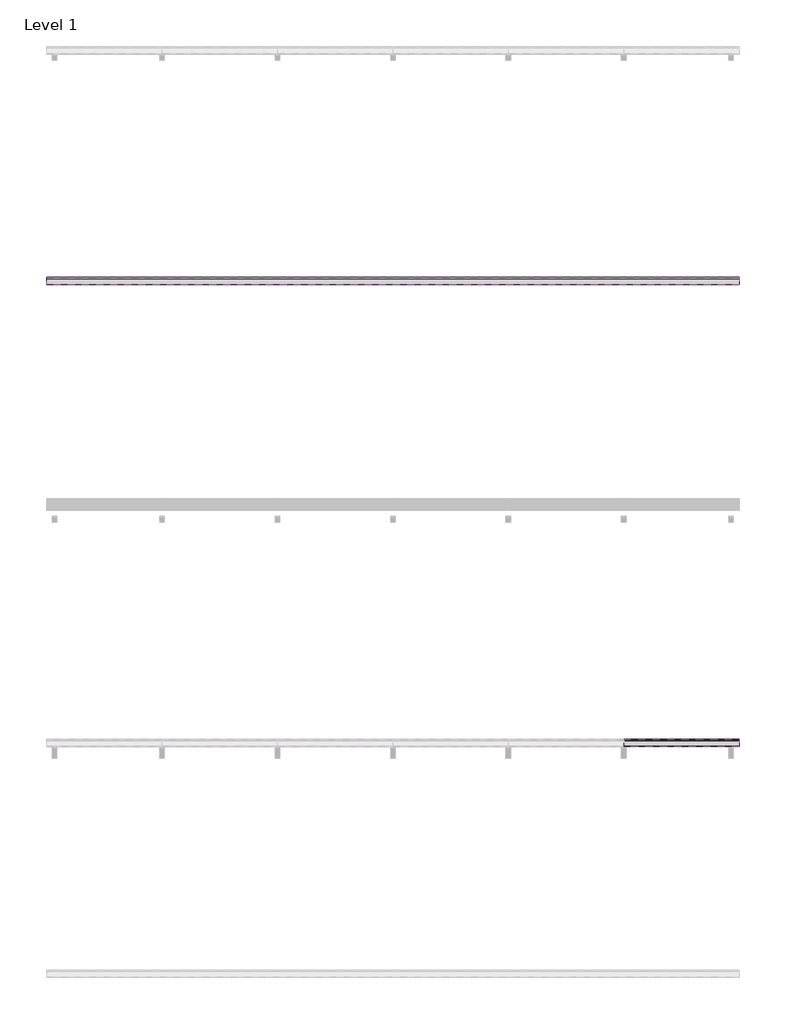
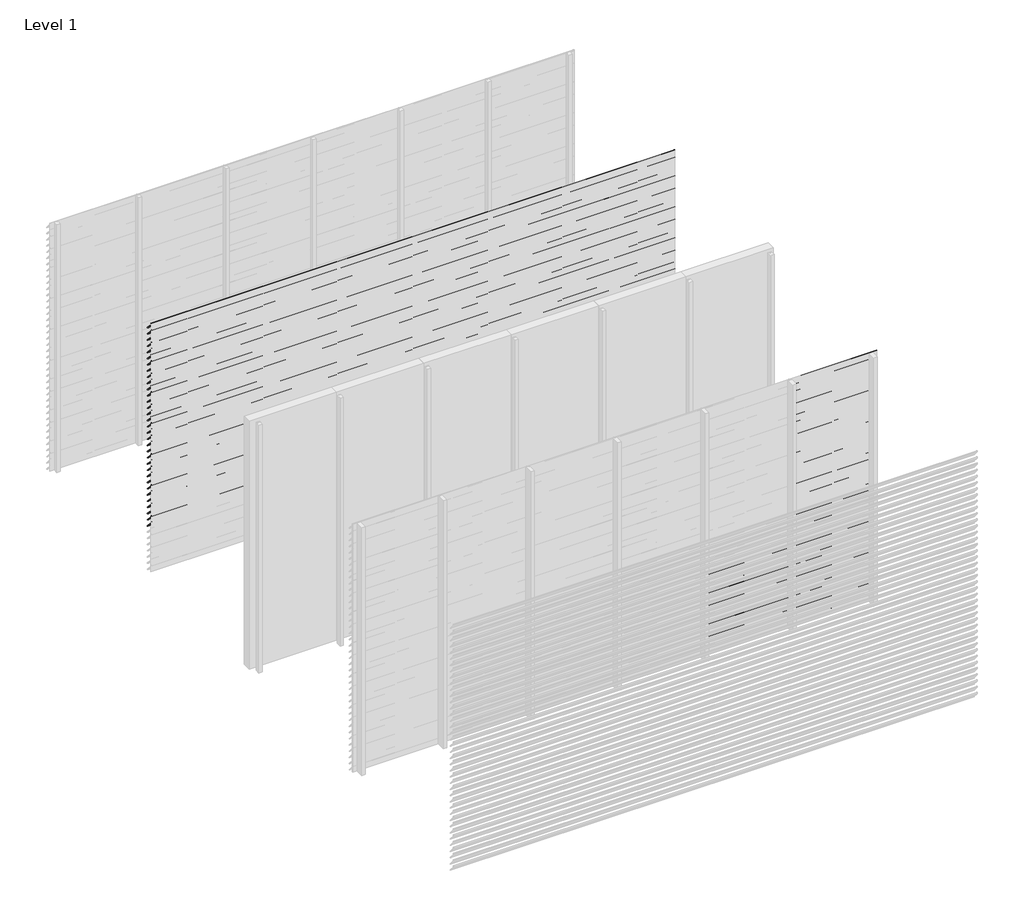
# One storey, part 16 of 35: 86 proxies.
"""IFC4 building model written with IfcOpenShell, lengths in millimetres."""

from ifc_helpers import new_model, si_unit, frame, origin, place, context, project, spatial, polyline, outline, extrude, element, save

model = new_model("IFC4")

# Units and contexts
model_context = context("Model", 3, world=origin())
ifc_project = project(units=[si_unit("LENGTHUNIT", "METRE", prefix="MILLI")], contexts=[model_context])

# Site, building, storey
site = spatial("IfcSite", under=ifc_project)
building = spatial("IfcBuilding", under=site)
storey = spatial("IfcBuildingStorey", under=building, Name="Level 1", Elevation=0.0)

# Proxies
placement = place(None, origin())
element("IfcBuildingElementProxy", 1, Name="Wall Sweeps", at=placement, inside=storey, context=model_context, shape_type="SweptSolid", body=[
    extrude(outline(polyline([(-31996.5, 3000.0), (-31996.5, 2985.5463701), (-31934.5, 2913.9330051), (-31934.5, 2910.4), (-31936.0, 2910.4), (-31936.0, 2913.3738975), (-31998.0, 2984.9872626), (-31998.0, 3000.0), (-31996.5, 3000.0)])), frame((0.0, 0.0, 0.0), z_axis=(1.0, 0.0, 0.0), x_axis=(0.0, 1.0, 0.0)), (0.0, 0.0, 1.0), 6000.0),
])
element("IfcBuildingElementProxy", 2, Name="Wall Sweeps", at=placement, inside=storey, context=model_context, shape_type="SweptSolid", body=[
    extrude(outline(polyline([(-31996.5, 2925.0), (-31996.5, 2910.5463701), (-31934.5, 2838.9330051), (-31934.5, 2835.4), (-31936.0, 2835.4), (-31936.0, 2838.3738975), (-31998.0, 2909.9872626), (-31998.0, 2925.0), (-31996.5, 2925.0)])), frame((0.0, 0.0, 0.0), z_axis=(1.0, 0.0, 0.0), x_axis=(0.0, 1.0, 0.0)), (0.0, 0.0, 1.0), 6000.0),
])
element("IfcBuildingElementProxy", 3, Name="Wall Sweeps", at=placement, inside=storey, context=model_context, shape_type="SweptSolid", body=[
    extrude(outline(polyline([(-31996.5, 2850.0), (-31996.5, 2835.5463701), (-31934.5, 2763.9330051), (-31934.5, 2760.4), (-31936.0, 2760.4), (-31936.0, 2763.3738975), (-31998.0, 2834.9872626), (-31998.0, 2850.0), (-31996.5, 2850.0)])), frame((0.0, 0.0, 0.0), z_axis=(1.0, 0.0, 0.0), x_axis=(0.0, 1.0, 0.0)), (0.0, 0.0, 1.0), 6000.0),
])
element("IfcBuildingElementProxy", 4, Name="Wall Sweeps", at=placement, inside=storey, context=model_context, shape_type="SweptSolid", body=[
    extrude(outline(polyline([(-31996.5, 2775.0), (-31996.5, 2760.5463701), (-31934.5, 2688.9330051), (-31934.5, 2685.4), (-31936.0, 2685.4), (-31936.0, 2688.3738975), (-31998.0, 2759.9872626), (-31998.0, 2775.0), (-31996.5, 2775.0)])), frame((0.0, 0.0, 0.0), z_axis=(1.0, 0.0, 0.0), x_axis=(0.0, 1.0, 0.0)), (0.0, 0.0, 1.0), 6000.0),
])
element("IfcBuildingElementProxy", 5, Name="Wall Sweeps", at=placement, inside=storey, context=model_context, shape_type="SweptSolid", body=[
    extrude(outline(polyline([(-31996.5, 2700.0), (-31996.5, 2685.5463701), (-31934.5, 2613.9330051), (-31934.5, 2610.4), (-31936.0, 2610.4), (-31936.0, 2613.3738975), (-31998.0, 2684.9872626), (-31998.0, 2700.0), (-31996.5, 2700.0)])), frame((0.0, 0.0, 0.0), z_axis=(1.0, 0.0, 0.0), x_axis=(0.0, 1.0, 0.0)), (0.0, 0.0, 1.0), 6000.0),
])
element("IfcBuildingElementProxy", 6, Name="Wall Sweeps", at=placement, inside=storey, context=model_context, shape_type="SweptSolid", body=[
    extrude(outline(polyline([(-31996.5, 2625.0), (-31996.5, 2610.5463701), (-31934.5, 2538.9330051), (-31934.5, 2535.4), (-31936.0, 2535.4), (-31936.0, 2538.3738975), (-31998.0, 2609.9872626), (-31998.0, 2625.0), (-31996.5, 2625.0)])), frame((0.0, 0.0, 0.0), z_axis=(1.0, 0.0, 0.0), x_axis=(0.0, 1.0, 0.0)), (0.0, 0.0, 1.0), 6000.0),
])
element("IfcBuildingElementProxy", 7, Name="Wall Sweeps", at=placement, inside=storey, context=model_context, shape_type="SweptSolid", body=[
    extrude(outline(polyline([(-31996.5, 2550.0), (-31996.5, 2535.5463701), (-31934.5, 2463.9330051), (-31934.5, 2460.4), (-31936.0, 2460.4), (-31936.0, 2463.3738975), (-31998.0, 2534.9872626), (-31998.0, 2550.0), (-31996.5, 2550.0)])), frame((0.0, 0.0, 0.0), z_axis=(1.0, 0.0, 0.0), x_axis=(0.0, 1.0, 0.0)), (0.0, 0.0, 1.0), 6000.0),
])
element("IfcBuildingElementProxy", 8, Name="Wall Sweeps", at=placement, inside=storey, context=model_context, shape_type="SweptSolid", body=[
    extrude(outline(polyline([(-31996.5, 2475.0), (-31996.5, 2460.5463701), (-31934.5, 2388.9330051), (-31934.5, 2385.4), (-31936.0, 2385.4), (-31936.0, 2388.3738975), (-31998.0, 2459.9872626), (-31998.0, 2475.0), (-31996.5, 2475.0)])), frame((0.0, 0.0, 0.0), z_axis=(1.0, 0.0, 0.0), x_axis=(0.0, 1.0, 0.0)), (0.0, 0.0, 1.0), 6000.0),
])
element("IfcBuildingElementProxy", 9, Name="Wall Sweeps", at=placement, inside=storey, context=model_context, shape_type="SweptSolid", body=[
    extrude(outline(polyline([(-31996.5, 2400.0), (-31996.5, 2385.5463701), (-31934.5, 2313.9330051), (-31934.5, 2310.4), (-31936.0, 2310.4), (-31936.0, 2313.3738975), (-31998.0, 2384.9872626), (-31998.0, 2400.0), (-31996.5, 2400.0)])), frame((0.0, 0.0, 0.0), z_axis=(1.0, 0.0, 0.0), x_axis=(0.0, 1.0, 0.0)), (0.0, 0.0, 1.0), 6000.0),
])
element("IfcBuildingElementProxy", 10, Name="Wall Sweeps", at=placement, inside=storey, context=model_context, shape_type="SweptSolid", body=[
    extrude(outline(polyline([(-31996.5, 2325.0), (-31996.5, 2310.5463701), (-31934.5, 2238.9330051), (-31934.5, 2235.4), (-31936.0, 2235.4), (-31936.0, 2238.3738975), (-31998.0, 2309.9872626), (-31998.0, 2325.0), (-31996.5, 2325.0)])), frame((0.0, 0.0, 0.0), z_axis=(1.0, 0.0, 0.0), x_axis=(0.0, 1.0, 0.0)), (0.0, 0.0, 1.0), 6000.0),
])
element("IfcBuildingElementProxy", 11, Name="Wall Sweeps", at=placement, inside=storey, context=model_context, shape_type="SweptSolid", body=[
    extrude(outline(polyline([(-31996.5, 2250.0), (-31996.5, 2235.5463701), (-31934.5, 2163.9330051), (-31934.5, 2160.4), (-31936.0, 2160.4), (-31936.0, 2163.3738975), (-31998.0, 2234.9872626), (-31998.0, 2250.0), (-31996.5, 2250.0)])), frame((0.0, 0.0, 0.0), z_axis=(1.0, 0.0, 0.0), x_axis=(0.0, 1.0, 0.0)), (0.0, 0.0, 1.0), 6000.0),
])
element("IfcBuildingElementProxy", 12, Name="Wall Sweeps", at=placement, inside=storey, context=model_context, shape_type="SweptSolid", body=[
    extrude(outline(polyline([(-31996.5, 2175.0), (-31996.5, 2160.5463701), (-31934.5, 2088.9330051), (-31934.5, 2085.4), (-31936.0, 2085.4), (-31936.0, 2088.3738975), (-31998.0, 2159.9872626), (-31998.0, 2175.0), (-31996.5, 2175.0)])), frame((0.0, 0.0, 0.0), z_axis=(1.0, 0.0, 0.0), x_axis=(0.0, 1.0, 0.0)), (0.0, 0.0, 1.0), 6000.0),
])
element("IfcBuildingElementProxy", 13, Name="Wall Sweeps", at=placement, inside=storey, context=model_context, shape_type="SweptSolid", body=[
    extrude(outline(polyline([(-31996.5, 2100.0), (-31996.5, 2085.5463701), (-31934.5, 2013.9330051), (-31934.5, 2010.4), (-31936.0, 2010.4), (-31936.0, 2013.3738975), (-31998.0, 2084.9872626), (-31998.0, 2100.0), (-31996.5, 2100.0)])), frame((0.0, 0.0, 0.0), z_axis=(1.0, 0.0, 0.0), x_axis=(0.0, 1.0, 0.0)), (0.0, 0.0, 1.0), 6000.0),
])
element("IfcBuildingElementProxy", 14, Name="Wall Sweeps", at=placement, inside=storey, context=model_context, shape_type="SweptSolid", body=[
    extrude(outline(polyline([(-31996.5, 2025.0), (-31996.5, 2010.5463701), (-31934.5, 1938.9330051), (-31934.5, 1935.4), (-31936.0, 1935.4), (-31936.0, 1938.3738975), (-31998.0, 2009.9872626), (-31998.0, 2025.0), (-31996.5, 2025.0)])), frame((0.0, 0.0, 0.0), z_axis=(1.0, 0.0, 0.0), x_axis=(0.0, 1.0, 0.0)), (0.0, 0.0, 1.0), 6000.0),
])
element("IfcBuildingElementProxy", 15, Name="Wall Sweeps", at=placement, inside=storey, context=model_context, shape_type="SweptSolid", body=[
    extrude(outline(polyline([(-31996.5, 1950.0), (-31996.5, 1935.5463701), (-31934.5, 1863.9330051), (-31934.5, 1860.4), (-31936.0, 1860.4), (-31936.0, 1863.3738975), (-31998.0, 1934.9872626), (-31998.0, 1950.0), (-31996.5, 1950.0)])), frame((0.0, 0.0, 0.0), z_axis=(1.0, 0.0, 0.0), x_axis=(0.0, 1.0, 0.0)), (0.0, 0.0, 1.0), 6000.0),
])
element("IfcBuildingElementProxy", 16, Name="Wall Sweeps", at=placement, inside=storey, context=model_context, shape_type="SweptSolid", body=[
    extrude(outline(polyline([(-31996.5, 1875.0), (-31996.5, 1860.5463701), (-31934.5, 1788.9330051), (-31934.5, 1785.4), (-31936.0, 1785.4), (-31936.0, 1788.3738975), (-31998.0, 1859.9872626), (-31998.0, 1875.0), (-31996.5, 1875.0)])), frame((0.0, 0.0, 0.0), z_axis=(1.0, 0.0, 0.0), x_axis=(0.0, 1.0, 0.0)), (0.0, 0.0, 1.0), 6000.0),
])
element("IfcBuildingElementProxy", 17, Name="Wall Sweeps", at=placement, inside=storey, context=model_context, shape_type="SweptSolid", body=[
    extrude(outline(polyline([(-31996.5, 1800.0), (-31996.5, 1785.5463701), (-31934.5, 1713.9330051), (-31934.5, 1710.4), (-31936.0, 1710.4), (-31936.0, 1713.3738975), (-31998.0, 1784.9872626), (-31998.0, 1800.0), (-31996.5, 1800.0)])), frame((0.0, 0.0, 0.0), z_axis=(1.0, 0.0, 0.0), x_axis=(0.0, 1.0, 0.0)), (0.0, 0.0, 1.0), 6000.0),
])
element("IfcBuildingElementProxy", 18, Name="Wall Sweeps", at=placement, inside=storey, context=model_context, shape_type="SweptSolid", body=[
    extrude(outline(polyline([(-31996.5, 1725.0), (-31996.5, 1710.5463701), (-31934.5, 1638.9330051), (-31934.5, 1635.4), (-31936.0, 1635.4), (-31936.0, 1638.3738975), (-31998.0, 1709.9872626), (-31998.0, 1725.0), (-31996.5, 1725.0)])), frame((0.0, 0.0, 0.0), z_axis=(1.0, 0.0, 0.0), x_axis=(0.0, 1.0, 0.0)), (0.0, 0.0, 1.0), 6000.0),
])
element("IfcBuildingElementProxy", 19, Name="Wall Sweeps", at=placement, inside=storey, context=model_context, shape_type="SweptSolid", body=[
    extrude(outline(polyline([(-31996.5, 1650.0), (-31996.5, 1635.5463701), (-31934.5, 1563.9330051), (-31934.5, 1560.4), (-31936.0, 1560.4), (-31936.0, 1563.3738975), (-31998.0, 1634.9872626), (-31998.0, 1650.0), (-31996.5, 1650.0)])), frame((0.0, 0.0, 0.0), z_axis=(1.0, 0.0, 0.0), x_axis=(0.0, 1.0, 0.0)), (0.0, 0.0, 1.0), 6000.0),
])
element("IfcBuildingElementProxy", 20, Name="Wall Sweeps", at=placement, inside=storey, context=model_context, shape_type="SweptSolid", body=[
    extrude(outline(polyline([(-31996.5, 1575.0), (-31996.5, 1560.5463701), (-31934.5, 1488.9330051), (-31934.5, 1485.4), (-31936.0, 1485.4), (-31936.0, 1488.3738975), (-31998.0, 1559.9872626), (-31998.0, 1575.0), (-31996.5, 1575.0)])), frame((0.0, 0.0, 0.0), z_axis=(1.0, 0.0, 0.0), x_axis=(0.0, 1.0, 0.0)), (0.0, 0.0, 1.0), 6000.0),
])
element("IfcBuildingElementProxy", 21, Name="Wall Sweeps", at=placement, inside=storey, context=model_context, shape_type="SweptSolid", body=[
    extrude(outline(polyline([(-31996.5, 1500.0), (-31996.5, 1485.5463701), (-31934.5, 1413.9330051), (-31934.5, 1410.4), (-31936.0, 1410.4), (-31936.0, 1413.3738975), (-31998.0, 1484.9872626), (-31998.0, 1500.0), (-31996.5, 1500.0)])), frame((0.0, 0.0, 0.0), z_axis=(1.0, 0.0, 0.0), x_axis=(0.0, 1.0, 0.0)), (0.0, 0.0, 1.0), 6000.0),
])
element("IfcBuildingElementProxy", 22, Name="Wall Sweeps", at=placement, inside=storey, context=model_context, shape_type="SweptSolid", body=[
    extrude(outline(polyline([(-31996.5, 1425.0), (-31996.5, 1410.5463701), (-31934.5, 1338.9330051), (-31934.5, 1335.4), (-31936.0, 1335.4), (-31936.0, 1338.3738975), (-31998.0, 1409.9872626), (-31998.0, 1425.0), (-31996.5, 1425.0)])), frame((0.0, 0.0, 0.0), z_axis=(1.0, 0.0, 0.0), x_axis=(0.0, 1.0, 0.0)), (0.0, 0.0, 1.0), 6000.0),
])
element("IfcBuildingElementProxy", 23, Name="Wall Sweeps", at=placement, inside=storey, context=model_context, shape_type="SweptSolid", body=[
    extrude(outline(polyline([(-31996.5, 1350.0), (-31996.5, 1335.5463701), (-31934.5, 1263.9330051), (-31934.5, 1260.4), (-31936.0, 1260.4), (-31936.0, 1263.3738975), (-31998.0, 1334.9872626), (-31998.0, 1350.0), (-31996.5, 1350.0)])), frame((0.0, 0.0, 0.0), z_axis=(1.0, 0.0, 0.0), x_axis=(0.0, 1.0, 0.0)), (0.0, 0.0, 1.0), 6000.0),
])
element("IfcBuildingElementProxy", 24, Name="Wall Sweeps", at=placement, inside=storey, context=model_context, shape_type="SweptSolid", body=[
    extrude(outline(polyline([(-31996.5, 1275.0), (-31996.5, 1260.5463701), (-31934.5, 1188.9330051), (-31934.5, 1185.4), (-31936.0, 1185.4), (-31936.0, 1188.3738975), (-31998.0, 1259.9872626), (-31998.0, 1275.0), (-31996.5, 1275.0)])), frame((0.0, 0.0, 0.0), z_axis=(1.0, 0.0, 0.0), x_axis=(0.0, 1.0, 0.0)), (0.0, 0.0, 1.0), 6000.0),
])
element("IfcBuildingElementProxy", 25, Name="Wall Sweeps", at=placement, inside=storey, context=model_context, shape_type="SweptSolid", body=[
    extrude(outline(polyline([(-31996.5, 1200.0), (-31996.5, 1185.5463701), (-31934.5, 1113.9330051), (-31934.5, 1110.4), (-31936.0, 1110.4), (-31936.0, 1113.3738975), (-31998.0, 1184.9872626), (-31998.0, 1200.0), (-31996.5, 1200.0)])), frame((0.0, 0.0, 0.0), z_axis=(1.0, 0.0, 0.0), x_axis=(0.0, 1.0, 0.0)), (0.0, 0.0, 1.0), 6000.0),
])
element("IfcBuildingElementProxy", 26, Name="Wall Sweeps", at=placement, inside=storey, context=model_context, shape_type="SweptSolid", body=[
    extrude(outline(polyline([(-31996.5, 1125.0), (-31996.5, 1110.5463701), (-31934.5, 1038.9330051), (-31934.5, 1035.4), (-31936.0, 1035.4), (-31936.0, 1038.3738975), (-31998.0, 1109.9872626), (-31998.0, 1125.0), (-31996.5, 1125.0)])), frame((0.0, 0.0, 0.0), z_axis=(1.0, 0.0, 0.0), x_axis=(0.0, 1.0, 0.0)), (0.0, 0.0, 1.0), 6000.0),
])
element("IfcBuildingElementProxy", 27, Name="Wall Sweeps", at=placement, inside=storey, context=model_context, shape_type="SweptSolid", body=[
    extrude(outline(polyline([(-31996.5, 1050.0), (-31996.5, 1035.5463701), (-31934.5, 963.9330051), (-31934.5, 960.4), (-31936.0, 960.4), (-31936.0, 963.3738975), (-31998.0, 1034.9872626), (-31998.0, 1050.0), (-31996.5, 1050.0)])), frame((0.0, 0.0, 0.0), z_axis=(1.0, 0.0, 0.0), x_axis=(0.0, 1.0, 0.0)), (0.0, 0.0, 1.0), 6000.0),
])
element("IfcBuildingElementProxy", 28, Name="Wall Sweeps", at=placement, inside=storey, context=model_context, shape_type="SweptSolid", body=[
    extrude(outline(polyline([(-31996.5, 975.0), (-31996.5, 960.5463701), (-31934.5, 888.9330051), (-31934.5, 885.4), (-31936.0, 885.4), (-31936.0, 888.3738975), (-31998.0, 959.9872626), (-31998.0, 975.0), (-31996.5, 975.0)])), frame((0.0, 0.0, 0.0), z_axis=(1.0, 0.0, 0.0), x_axis=(0.0, 1.0, 0.0)), (0.0, 0.0, 1.0), 6000.0),
])
element("IfcBuildingElementProxy", 29, Name="Wall Sweeps", at=placement, inside=storey, context=model_context, shape_type="SweptSolid", body=[
    extrude(outline(polyline([(-31996.5, 900.0), (-31996.5, 885.5463701), (-31934.5, 813.9330051), (-31934.5, 810.4), (-31936.0, 810.4), (-31936.0, 813.3738975), (-31998.0, 884.9872626), (-31998.0, 900.0), (-31996.5, 900.0)])), frame((0.0, 0.0, 0.0), z_axis=(1.0, 0.0, 0.0), x_axis=(0.0, 1.0, 0.0)), (0.0, 0.0, 1.0), 6000.0),
])
element("IfcBuildingElementProxy", 30, Name="Wall Sweeps", at=placement, inside=storey, context=model_context, shape_type="SweptSolid", body=[
    extrude(outline(polyline([(-31996.5, 825.0), (-31996.5, 810.5463701), (-31934.5, 738.9330051), (-31934.5, 735.4), (-31936.0, 735.4), (-31936.0, 738.3738975), (-31998.0, 809.9872626), (-31998.0, 825.0), (-31996.5, 825.0)])), frame((0.0, 0.0, 0.0), z_axis=(1.0, 0.0, 0.0), x_axis=(0.0, 1.0, 0.0)), (0.0, 0.0, 1.0), 6000.0),
])
element("IfcBuildingElementProxy", 31, Name="Wall Sweeps", at=placement, inside=storey, context=model_context, shape_type="SweptSolid", body=[
    extrude(outline(polyline([(-31996.5, 750.0), (-31996.5, 735.5463701), (-31934.5, 663.9330051), (-31934.5, 660.4), (-31936.0, 660.4), (-31936.0, 663.3738975), (-31998.0, 734.9872626), (-31998.0, 750.0), (-31996.5, 750.0)])), frame((0.0, 0.0, 0.0), z_axis=(1.0, 0.0, 0.0), x_axis=(0.0, 1.0, 0.0)), (0.0, 0.0, 1.0), 6000.0),
])
element("IfcBuildingElementProxy", 32, Name="Wall Sweeps", at=placement, inside=storey, context=model_context, shape_type="SweptSolid", body=[
    extrude(outline(polyline([(-31996.5, 675.0), (-31996.5, 660.5463701), (-31934.5, 588.9330051), (-31934.5, 585.4), (-31936.0, 585.4), (-31936.0, 588.3738975), (-31998.0, 659.9872626), (-31998.0, 675.0), (-31996.5, 675.0)])), frame((0.0, 0.0, 0.0), z_axis=(1.0, 0.0, 0.0), x_axis=(0.0, 1.0, 0.0)), (0.0, 0.0, 1.0), 6000.0),
])
element("IfcBuildingElementProxy", 33, Name="Wall Sweeps", at=placement, inside=storey, context=model_context, shape_type="SweptSolid", body=[
    extrude(outline(polyline([(-31996.5, 600.0), (-31996.5, 585.5463701), (-31934.5, 513.9330051), (-31934.5, 510.4), (-31936.0, 510.4), (-31936.0, 513.3738975), (-31998.0, 584.9872626), (-31998.0, 600.0), (-31996.5, 600.0)])), frame((0.0, 0.0, 0.0), z_axis=(1.0, 0.0, 0.0), x_axis=(0.0, 1.0, 0.0)), (0.0, 0.0, 1.0), 6000.0),
])
element("IfcBuildingElementProxy", 34, Name="Wall Sweeps", at=placement, inside=storey, context=model_context, shape_type="SweptSolid", body=[
    extrude(outline(polyline([(-35996.5, 975.0), (-35996.5, 960.5463701), (-35934.5, 888.9330051), (-35934.5, 885.4), (-35936.0, 885.4), (-35936.0, 888.3738975), (-35998.0, 959.9872626), (-35998.0, 975.0), (-35996.5, 975.0)])), frame((4000.0, 0.0, 0.0), z_axis=(1.0, 0.0, 0.0), x_axis=(0.0, 1.0, 0.0)), (0.0, 0.0, 1.0), 1000.0),
])
element("IfcBuildingElementProxy", 35, Name="Wall Sweeps", at=placement, inside=storey, context=model_context, shape_type="SweptSolid", body=[
    extrude(outline(polyline([(-35996.5, 900.0), (-35996.5, 885.5463701), (-35934.5, 813.9330051), (-35934.5, 810.4), (-35936.0, 810.4), (-35936.0, 813.3738975), (-35998.0, 884.9872626), (-35998.0, 900.0), (-35996.5, 900.0)])), frame((4000.0, 0.0, 0.0), z_axis=(1.0, 0.0, 0.0), x_axis=(0.0, 1.0, 0.0)), (0.0, 0.0, 1.0), 1000.0),
])
element("IfcBuildingElementProxy", 36, Name="Wall Sweeps", at=placement, inside=storey, context=model_context, shape_type="SweptSolid", body=[
    extrude(outline(polyline([(-35996.5, 825.0), (-35996.5, 810.5463701), (-35934.5, 738.9330051), (-35934.5, 735.4), (-35936.0, 735.4), (-35936.0, 738.3738975), (-35998.0, 809.9872626), (-35998.0, 825.0), (-35996.5, 825.0)])), frame((4000.0, 0.0, 0.0), z_axis=(1.0, 0.0, 0.0), x_axis=(0.0, 1.0, 0.0)), (0.0, 0.0, 1.0), 1000.0),
])
element("IfcBuildingElementProxy", 37, Name="Wall Sweeps", at=placement, inside=storey, context=model_context, shape_type="SweptSolid", body=[
    extrude(outline(polyline([(-35996.5, 750.0), (-35996.5, 735.5463701), (-35934.5, 663.9330051), (-35934.5, 660.4), (-35936.0, 660.4), (-35936.0, 663.3738975), (-35998.0, 734.9872626), (-35998.0, 750.0), (-35996.5, 750.0)])), frame((4000.0, 0.0, 0.0), z_axis=(1.0, 0.0, 0.0), x_axis=(0.0, 1.0, 0.0)), (0.0, 0.0, 1.0), 1000.0),
])
element("IfcBuildingElementProxy", 38, Name="Wall Sweeps", at=placement, inside=storey, context=model_context, shape_type="SweptSolid", body=[
    extrude(outline(polyline([(-35996.5, 675.0), (-35996.5, 660.5463701), (-35934.5, 588.9330051), (-35934.5, 585.4), (-35936.0, 585.4), (-35936.0, 588.3738975), (-35998.0, 659.9872626), (-35998.0, 675.0), (-35996.5, 675.0)])), frame((4000.0, 0.0, 0.0), z_axis=(1.0, 0.0, 0.0), x_axis=(0.0, 1.0, 0.0)), (0.0, 0.0, 1.0), 1000.0),
])
element("IfcBuildingElementProxy", 39, Name="Wall Sweeps", at=placement, inside=storey, context=model_context, shape_type="SweptSolid", body=[
    extrude(outline(polyline([(-35996.5, 600.0), (-35996.5, 585.5463701), (-35934.5, 513.9330051), (-35934.5, 510.4), (-35936.0, 510.4), (-35936.0, 513.3738975), (-35998.0, 584.9872626), (-35998.0, 600.0), (-35996.5, 600.0)])), frame((4000.0, 0.0, 0.0), z_axis=(1.0, 0.0, 0.0), x_axis=(0.0, 1.0, 0.0)), (0.0, 0.0, 1.0), 1000.0),
])
element("IfcBuildingElementProxy", 40, Name="Wall Sweeps", at=placement, inside=storey, context=model_context, shape_type="SweptSolid", body=[
    extrude(outline(polyline([(-35996.5, 525.0), (-35996.5, 510.5463701), (-35934.5, 438.9330051), (-35934.5, 435.4), (-35936.0, 435.4), (-35936.0, 438.3738975), (-35998.0, 509.9872626), (-35998.0, 525.0), (-35996.5, 525.0)])), frame((4000.0, 0.0, 0.0), z_axis=(1.0, 0.0, 0.0), x_axis=(0.0, 1.0, 0.0)), (0.0, 0.0, 1.0), 1000.0),
])
element("IfcBuildingElementProxy", 41, Name="Wall Sweeps", at=placement, inside=storey, context=model_context, shape_type="SweptSolid", body=[
    extrude(outline(polyline([(-35996.5, 450.0), (-35996.5, 435.5463701), (-35934.5, 363.9330051), (-35934.5, 360.4), (-35936.0, 360.4), (-35936.0, 363.3738975), (-35998.0, 434.9872626), (-35998.0, 450.0), (-35996.5, 450.0)])), frame((4000.0, 0.0, 0.0), z_axis=(1.0, 0.0, 0.0), x_axis=(0.0, 1.0, 0.0)), (0.0, 0.0, 1.0), 1000.0),
])
element("IfcBuildingElementProxy", 42, Name="Wall Sweeps", at=placement, inside=storey, context=model_context, shape_type="SweptSolid", body=[
    extrude(outline(polyline([(-35996.5, 375.0), (-35996.5, 360.5463701), (-35934.5, 288.9330051), (-35934.5, 285.4), (-35936.0, 285.4), (-35936.0, 288.3738975), (-35998.0, 359.9872626), (-35998.0, 375.0), (-35996.5, 375.0)])), frame((4000.0, 0.0, 0.0), z_axis=(1.0, 0.0, 0.0), x_axis=(0.0, 1.0, 0.0)), (0.0, 0.0, 1.0), 1000.0),
])
element("IfcBuildingElementProxy", 43, Name="Wall Sweeps", at=placement, inside=storey, context=model_context, shape_type="SweptSolid", body=[
    extrude(outline(polyline([(-35996.5, 300.0), (-35996.5, 285.5463701), (-35934.5, 213.9330051), (-35934.5, 210.4), (-35936.0, 210.4), (-35936.0, 213.3738975), (-35998.0, 284.9872626), (-35998.0, 300.0), (-35996.5, 300.0)])), frame((4000.0, 0.0, 0.0), z_axis=(1.0, 0.0, 0.0), x_axis=(0.0, 1.0, 0.0)), (0.0, 0.0, 1.0), 1000.0),
])
element("IfcBuildingElementProxy", 44, Name="Wall Sweeps", at=placement, inside=storey, context=model_context, shape_type="SweptSolid", body=[
    extrude(outline(polyline([(-35996.5, 225.0), (-35996.5, 210.5463701), (-35934.5, 138.9330051), (-35934.5, 135.4), (-35936.0, 135.4), (-35936.0, 138.3738975), (-35998.0, 209.9872626), (-35998.0, 225.0), (-35996.5, 225.0)])), frame((4000.0, 0.0, 0.0), z_axis=(1.0, 0.0, 0.0), x_axis=(0.0, 1.0, 0.0)), (0.0, 0.0, 1.0), 1000.0),
])
element("IfcBuildingElementProxy", 45, Name="Wall Sweeps", at=placement, inside=storey, context=model_context, shape_type="SweptSolid", body=[
    extrude(outline(polyline([(-35996.5, 150.0), (-35996.5, 135.5463701), (-35934.5, 63.9330051), (-35934.5, 60.4), (-35936.0, 60.4), (-35936.0, 63.3738975), (-35998.0, 134.9872626), (-35998.0, 150.0), (-35996.5, 150.0)])), frame((4000.0, 0.0, 0.0), z_axis=(1.0, 0.0, 0.0), x_axis=(0.0, 1.0, 0.0)), (0.0, 0.0, 1.0), 1000.0),
])
element("IfcBuildingElementProxy", 46, Name="Wall Sweeps", at=placement, inside=storey, context=model_context, shape_type="SweptSolid", body=[
    extrude(outline(polyline([(-35996.5, 75.0), (-35996.5, 60.5463701), (-35934.5, -11.0669949), (-35934.5, -14.6), (-35936.0, -14.6), (-35936.0, -11.6261025), (-35998.0, 59.9872626), (-35998.0, 75.0), (-35996.5, 75.0)])), frame((4000.0, 0.0, 0.0), z_axis=(1.0, 0.0, 0.0), x_axis=(0.0, 1.0, 0.0)), (0.0, 0.0, 1.0), 1000.0),
])
element("IfcBuildingElementProxy", 47, Name="Wall Sweeps", at=placement, inside=storey, context=model_context, shape_type="SweptSolid", body=[
    extrude(outline(polyline([(-35996.5, 3000.0), (-35996.5, 2985.5463701), (-35934.5, 2913.9330051), (-35934.5, 2910.4), (-35936.0, 2910.4), (-35936.0, 2913.3738975), (-35998.0, 2984.9872626), (-35998.0, 3000.0), (-35996.5, 3000.0)])), frame((5000.0, 0.0, 0.0), z_axis=(1.0, 0.0, 0.0), x_axis=(0.0, 1.0, 0.0)), (0.0, 0.0, 1.0), 1000.0),
])
element("IfcBuildingElementProxy", 48, Name="Wall Sweeps", at=placement, inside=storey, context=model_context, shape_type="SweptSolid", body=[
    extrude(outline(polyline([(-35996.5, 2925.0), (-35996.5, 2910.5463701), (-35934.5, 2838.9330051), (-35934.5, 2835.4), (-35936.0, 2835.4), (-35936.0, 2838.3738975), (-35998.0, 2909.9872626), (-35998.0, 2925.0), (-35996.5, 2925.0)])), frame((5000.0, 0.0, 0.0), z_axis=(1.0, 0.0, 0.0), x_axis=(0.0, 1.0, 0.0)), (0.0, 0.0, 1.0), 1000.0),
])
element("IfcBuildingElementProxy", 49, Name="Wall Sweeps", at=placement, inside=storey, context=model_context, shape_type="SweptSolid", body=[
    extrude(outline(polyline([(-35996.5, 2850.0), (-35996.5, 2835.5463701), (-35934.5, 2763.9330051), (-35934.5, 2760.4), (-35936.0, 2760.4), (-35936.0, 2763.3738975), (-35998.0, 2834.9872626), (-35998.0, 2850.0), (-35996.5, 2850.0)])), frame((5000.0, 0.0, 0.0), z_axis=(1.0, 0.0, 0.0), x_axis=(0.0, 1.0, 0.0)), (0.0, 0.0, 1.0), 1000.0),
])
element("IfcBuildingElementProxy", 50, Name="Wall Sweeps", at=placement, inside=storey, context=model_context, shape_type="SweptSolid", body=[
    extrude(outline(polyline([(-35996.5, 2775.0), (-35996.5, 2760.5463701), (-35934.5, 2688.9330051), (-35934.5, 2685.4), (-35936.0, 2685.4), (-35936.0, 2688.3738975), (-35998.0, 2759.9872626), (-35998.0, 2775.0), (-35996.5, 2775.0)])), frame((5000.0, 0.0, 0.0), z_axis=(1.0, 0.0, 0.0), x_axis=(0.0, 1.0, 0.0)), (0.0, 0.0, 1.0), 1000.0),
])
element("IfcBuildingElementProxy", 51, Name="Wall Sweeps", at=placement, inside=storey, context=model_context, shape_type="SweptSolid", body=[
    extrude(outline(polyline([(-35996.5, 2700.0), (-35996.5, 2685.5463701), (-35934.5, 2613.9330051), (-35934.5, 2610.4), (-35936.0, 2610.4), (-35936.0, 2613.3738975), (-35998.0, 2684.9872626), (-35998.0, 2700.0), (-35996.5, 2700.0)])), frame((5000.0, 0.0, 0.0), z_axis=(1.0, 0.0, 0.0), x_axis=(0.0, 1.0, 0.0)), (0.0, 0.0, 1.0), 1000.0),
])
element("IfcBuildingElementProxy", 52, Name="Wall Sweeps", at=placement, inside=storey, context=model_context, shape_type="SweptSolid", body=[
    extrude(outline(polyline([(-35996.5, 2625.0), (-35996.5, 2610.5463701), (-35934.5, 2538.9330051), (-35934.5, 2535.4), (-35936.0, 2535.4), (-35936.0, 2538.3738975), (-35998.0, 2609.9872626), (-35998.0, 2625.0), (-35996.5, 2625.0)])), frame((5000.0, 0.0, 0.0), z_axis=(1.0, 0.0, 0.0), x_axis=(0.0, 1.0, 0.0)), (0.0, 0.0, 1.0), 1000.0),
])
element("IfcBuildingElementProxy", 53, Name="Wall Sweeps", at=placement, inside=storey, context=model_context, shape_type="SweptSolid", body=[
    extrude(outline(polyline([(-35996.5, 2550.0), (-35996.5, 2535.5463701), (-35934.5, 2463.9330051), (-35934.5, 2460.4), (-35936.0, 2460.4), (-35936.0, 2463.3738975), (-35998.0, 2534.9872626), (-35998.0, 2550.0), (-35996.5, 2550.0)])), frame((5000.0, 0.0, 0.0), z_axis=(1.0, 0.0, 0.0), x_axis=(0.0, 1.0, 0.0)), (0.0, 0.0, 1.0), 1000.0),
])
element("IfcBuildingElementProxy", 54, Name="Wall Sweeps", at=placement, inside=storey, context=model_context, shape_type="SweptSolid", body=[
    extrude(outline(polyline([(-35996.5, 2475.0), (-35996.5, 2460.5463701), (-35934.5, 2388.9330051), (-35934.5, 2385.4), (-35936.0, 2385.4), (-35936.0, 2388.3738975), (-35998.0, 2459.9872626), (-35998.0, 2475.0), (-35996.5, 2475.0)])), frame((5000.0, 0.0, 0.0), z_axis=(1.0, 0.0, 0.0), x_axis=(0.0, 1.0, 0.0)), (0.0, 0.0, 1.0), 1000.0),
])
element("IfcBuildingElementProxy", 55, Name="Wall Sweeps", at=placement, inside=storey, context=model_context, shape_type="SweptSolid", body=[
    extrude(outline(polyline([(-35996.5, 2400.0), (-35996.5, 2385.5463701), (-35934.5, 2313.9330051), (-35934.5, 2310.4), (-35936.0, 2310.4), (-35936.0, 2313.3738975), (-35998.0, 2384.9872626), (-35998.0, 2400.0), (-35996.5, 2400.0)])), frame((5000.0, 0.0, 0.0), z_axis=(1.0, 0.0, 0.0), x_axis=(0.0, 1.0, 0.0)), (0.0, 0.0, 1.0), 1000.0),
])
element("IfcBuildingElementProxy", 56, Name="Wall Sweeps", at=placement, inside=storey, context=model_context, shape_type="SweptSolid", body=[
    extrude(outline(polyline([(-35996.5, 2325.0), (-35996.5, 2310.5463701), (-35934.5, 2238.9330051), (-35934.5, 2235.4), (-35936.0, 2235.4), (-35936.0, 2238.3738975), (-35998.0, 2309.9872626), (-35998.0, 2325.0), (-35996.5, 2325.0)])), frame((5000.0, 0.0, 0.0), z_axis=(1.0, 0.0, 0.0), x_axis=(0.0, 1.0, 0.0)), (0.0, 0.0, 1.0), 1000.0),
])
element("IfcBuildingElementProxy", 57, Name="Wall Sweeps", at=placement, inside=storey, context=model_context, shape_type="SweptSolid", body=[
    extrude(outline(polyline([(-35996.5, 2250.0), (-35996.5, 2235.5463701), (-35934.5, 2163.9330051), (-35934.5, 2160.4), (-35936.0, 2160.4), (-35936.0, 2163.3738975), (-35998.0, 2234.9872626), (-35998.0, 2250.0), (-35996.5, 2250.0)])), frame((5000.0, 0.0, 0.0), z_axis=(1.0, 0.0, 0.0), x_axis=(0.0, 1.0, 0.0)), (0.0, 0.0, 1.0), 1000.0),
])
element("IfcBuildingElementProxy", 58, Name="Wall Sweeps", at=placement, inside=storey, context=model_context, shape_type="SweptSolid", body=[
    extrude(outline(polyline([(-35996.5, 2175.0), (-35996.5, 2160.5463701), (-35934.5, 2088.9330051), (-35934.5, 2085.4), (-35936.0, 2085.4), (-35936.0, 2088.3738975), (-35998.0, 2159.9872626), (-35998.0, 2175.0), (-35996.5, 2175.0)])), frame((5000.0, 0.0, 0.0), z_axis=(1.0, 0.0, 0.0), x_axis=(0.0, 1.0, 0.0)), (0.0, 0.0, 1.0), 1000.0),
])
element("IfcBuildingElementProxy", 59, Name="Wall Sweeps", at=placement, inside=storey, context=model_context, shape_type="SweptSolid", body=[
    extrude(outline(polyline([(-35996.5, 2100.0), (-35996.5, 2085.5463701), (-35934.5, 2013.9330051), (-35934.5, 2010.4), (-35936.0, 2010.4), (-35936.0, 2013.3738975), (-35998.0, 2084.9872626), (-35998.0, 2100.0), (-35996.5, 2100.0)])), frame((5000.0, 0.0, 0.0), z_axis=(1.0, 0.0, 0.0), x_axis=(0.0, 1.0, 0.0)), (0.0, 0.0, 1.0), 1000.0),
])
element("IfcBuildingElementProxy", 60, Name="Wall Sweeps", at=placement, inside=storey, context=model_context, shape_type="SweptSolid", body=[
    extrude(outline(polyline([(-35996.5, 2025.0), (-35996.5, 2010.5463701), (-35934.5, 1938.9330051), (-35934.5, 1935.4), (-35936.0, 1935.4), (-35936.0, 1938.3738975), (-35998.0, 2009.9872626), (-35998.0, 2025.0), (-35996.5, 2025.0)])), frame((5000.0, 0.0, 0.0), z_axis=(1.0, 0.0, 0.0), x_axis=(0.0, 1.0, 0.0)), (0.0, 0.0, 1.0), 1000.0),
])
element("IfcBuildingElementProxy", 61, Name="Wall Sweeps", at=placement, inside=storey, context=model_context, shape_type="SweptSolid", body=[
    extrude(outline(polyline([(-35996.5, 1950.0), (-35996.5, 1935.5463701), (-35934.5, 1863.9330051), (-35934.5, 1860.4), (-35936.0, 1860.4), (-35936.0, 1863.3738975), (-35998.0, 1934.9872626), (-35998.0, 1950.0), (-35996.5, 1950.0)])), frame((5000.0, 0.0, 0.0), z_axis=(1.0, 0.0, 0.0), x_axis=(0.0, 1.0, 0.0)), (0.0, 0.0, 1.0), 1000.0),
])
element("IfcBuildingElementProxy", 62, Name="Wall Sweeps", at=placement, inside=storey, context=model_context, shape_type="SweptSolid", body=[
    extrude(outline(polyline([(-35996.5, 1875.0), (-35996.5, 1860.5463701), (-35934.5, 1788.9330051), (-35934.5, 1785.4), (-35936.0, 1785.4), (-35936.0, 1788.3738975), (-35998.0, 1859.9872626), (-35998.0, 1875.0), (-35996.5, 1875.0)])), frame((5000.0, 0.0, 0.0), z_axis=(1.0, 0.0, 0.0), x_axis=(0.0, 1.0, 0.0)), (0.0, 0.0, 1.0), 1000.0),
])
element("IfcBuildingElementProxy", 63, Name="Wall Sweeps", at=placement, inside=storey, context=model_context, shape_type="SweptSolid", body=[
    extrude(outline(polyline([(-35996.5, 1800.0), (-35996.5, 1785.5463701), (-35934.5, 1713.9330051), (-35934.5, 1710.4), (-35936.0, 1710.4), (-35936.0, 1713.3738975), (-35998.0, 1784.9872626), (-35998.0, 1800.0), (-35996.5, 1800.0)])), frame((5000.0, 0.0, 0.0), z_axis=(1.0, 0.0, 0.0), x_axis=(0.0, 1.0, 0.0)), (0.0, 0.0, 1.0), 1000.0),
])
element("IfcBuildingElementProxy", 64, Name="Wall Sweeps", at=placement, inside=storey, context=model_context, shape_type="SweptSolid", body=[
    extrude(outline(polyline([(-35996.5, 1725.0), (-35996.5, 1710.5463701), (-35934.5, 1638.9330051), (-35934.5, 1635.4), (-35936.0, 1635.4), (-35936.0, 1638.3738975), (-35998.0, 1709.9872626), (-35998.0, 1725.0), (-35996.5, 1725.0)])), frame((5000.0, 0.0, 0.0), z_axis=(1.0, 0.0, 0.0), x_axis=(0.0, 1.0, 0.0)), (0.0, 0.0, 1.0), 1000.0),
])
element("IfcBuildingElementProxy", 65, Name="Wall Sweeps", at=placement, inside=storey, context=model_context, shape_type="SweptSolid", body=[
    extrude(outline(polyline([(-35996.5, 1650.0), (-35996.5, 1635.5463701), (-35934.5, 1563.9330051), (-35934.5, 1560.4), (-35936.0, 1560.4), (-35936.0, 1563.3738975), (-35998.0, 1634.9872626), (-35998.0, 1650.0), (-35996.5, 1650.0)])), frame((5000.0, 0.0, 0.0), z_axis=(1.0, 0.0, 0.0), x_axis=(0.0, 1.0, 0.0)), (0.0, 0.0, 1.0), 1000.0),
])
element("IfcBuildingElementProxy", 66, Name="Wall Sweeps", at=placement, inside=storey, context=model_context, shape_type="SweptSolid", body=[
    extrude(outline(polyline([(-35996.5, 1575.0), (-35996.5, 1560.5463701), (-35934.5, 1488.9330051), (-35934.5, 1485.4), (-35936.0, 1485.4), (-35936.0, 1488.3738975), (-35998.0, 1559.9872626), (-35998.0, 1575.0), (-35996.5, 1575.0)])), frame((5000.0, 0.0, 0.0), z_axis=(1.0, 0.0, 0.0), x_axis=(0.0, 1.0, 0.0)), (0.0, 0.0, 1.0), 1000.0),
])
element("IfcBuildingElementProxy", 67, Name="Wall Sweeps", at=placement, inside=storey, context=model_context, shape_type="SweptSolid", body=[
    extrude(outline(polyline([(-35996.5, 1500.0), (-35996.5, 1485.5463701), (-35934.5, 1413.9330051), (-35934.5, 1410.4), (-35936.0, 1410.4), (-35936.0, 1413.3738975), (-35998.0, 1484.9872626), (-35998.0, 1500.0), (-35996.5, 1500.0)])), frame((5000.0, 0.0, 0.0), z_axis=(1.0, 0.0, 0.0), x_axis=(0.0, 1.0, 0.0)), (0.0, 0.0, 1.0), 1000.0),
])
element("IfcBuildingElementProxy", 68, Name="Wall Sweeps", at=placement, inside=storey, context=model_context, shape_type="SweptSolid", body=[
    extrude(outline(polyline([(-35996.5, 1425.0), (-35996.5, 1410.5463701), (-35934.5, 1338.9330051), (-35934.5, 1335.4), (-35936.0, 1335.4), (-35936.0, 1338.3738975), (-35998.0, 1409.9872626), (-35998.0, 1425.0), (-35996.5, 1425.0)])), frame((5000.0, 0.0, 0.0), z_axis=(1.0, 0.0, 0.0), x_axis=(0.0, 1.0, 0.0)), (0.0, 0.0, 1.0), 1000.0),
])
element("IfcBuildingElementProxy", 69, Name="Wall Sweeps", at=placement, inside=storey, context=model_context, shape_type="SweptSolid", body=[
    extrude(outline(polyline([(-35996.5, 1350.0), (-35996.5, 1335.5463701), (-35934.5, 1263.9330051), (-35934.5, 1260.4), (-35936.0, 1260.4), (-35936.0, 1263.3738975), (-35998.0, 1334.9872626), (-35998.0, 1350.0), (-35996.5, 1350.0)])), frame((5000.0, 0.0, 0.0), z_axis=(1.0, 0.0, 0.0), x_axis=(0.0, 1.0, 0.0)), (0.0, 0.0, 1.0), 1000.0),
])
element("IfcBuildingElementProxy", 70, Name="Wall Sweeps", at=placement, inside=storey, context=model_context, shape_type="SweptSolid", body=[
    extrude(outline(polyline([(-35996.5, 1275.0), (-35996.5, 1260.5463701), (-35934.5, 1188.9330051), (-35934.5, 1185.4), (-35936.0, 1185.4), (-35936.0, 1188.3738975), (-35998.0, 1259.9872626), (-35998.0, 1275.0), (-35996.5, 1275.0)])), frame((5000.0, 0.0, 0.0), z_axis=(1.0, 0.0, 0.0), x_axis=(0.0, 1.0, 0.0)), (0.0, 0.0, 1.0), 1000.0),
])
element("IfcBuildingElementProxy", 71, Name="Wall Sweeps", at=placement, inside=storey, context=model_context, shape_type="SweptSolid", body=[
    extrude(outline(polyline([(-35996.5, 1200.0), (-35996.5, 1185.5463701), (-35934.5, 1113.9330051), (-35934.5, 1110.4), (-35936.0, 1110.4), (-35936.0, 1113.3738975), (-35998.0, 1184.9872626), (-35998.0, 1200.0), (-35996.5, 1200.0)])), frame((5000.0, 0.0, 0.0), z_axis=(1.0, 0.0, 0.0), x_axis=(0.0, 1.0, 0.0)), (0.0, 0.0, 1.0), 1000.0),
])
element("IfcBuildingElementProxy", 72, Name="Wall Sweeps", at=placement, inside=storey, context=model_context, shape_type="SweptSolid", body=[
    extrude(outline(polyline([(-35996.5, 1125.0), (-35996.5, 1110.5463701), (-35934.5, 1038.9330051), (-35934.5, 1035.4), (-35936.0, 1035.4), (-35936.0, 1038.3738975), (-35998.0, 1109.9872626), (-35998.0, 1125.0), (-35996.5, 1125.0)])), frame((5000.0, 0.0, 0.0), z_axis=(1.0, 0.0, 0.0), x_axis=(0.0, 1.0, 0.0)), (0.0, 0.0, 1.0), 1000.0),
])
element("IfcBuildingElementProxy", 73, Name="Wall Sweeps", at=placement, inside=storey, context=model_context, shape_type="SweptSolid", body=[
    extrude(outline(polyline([(-35996.5, 1050.0), (-35996.5, 1035.5463701), (-35934.5, 963.9330051), (-35934.5, 960.4), (-35936.0, 960.4), (-35936.0, 963.3738975), (-35998.0, 1034.9872626), (-35998.0, 1050.0), (-35996.5, 1050.0)])), frame((5000.0, 0.0, 0.0), z_axis=(1.0, 0.0, 0.0), x_axis=(0.0, 1.0, 0.0)), (0.0, 0.0, 1.0), 1000.0),
])
element("IfcBuildingElementProxy", 74, Name="Wall Sweeps", at=placement, inside=storey, context=model_context, shape_type="SweptSolid", body=[
    extrude(outline(polyline([(-35996.5, 975.0), (-35996.5, 960.5463701), (-35934.5, 888.9330051), (-35934.5, 885.4), (-35936.0, 885.4), (-35936.0, 888.3738975), (-35998.0, 959.9872626), (-35998.0, 975.0), (-35996.5, 975.0)])), frame((5000.0, 0.0, 0.0), z_axis=(1.0, 0.0, 0.0), x_axis=(0.0, 1.0, 0.0)), (0.0, 0.0, 1.0), 1000.0),
])
element("IfcBuildingElementProxy", 75, Name="Wall Sweeps", at=placement, inside=storey, context=model_context, shape_type="SweptSolid", body=[
    extrude(outline(polyline([(-35996.5, 900.0), (-35996.5, 885.5463701), (-35934.5, 813.9330051), (-35934.5, 810.4), (-35936.0, 810.4), (-35936.0, 813.3738975), (-35998.0, 884.9872626), (-35998.0, 900.0), (-35996.5, 900.0)])), frame((5000.0, 0.0, 0.0), z_axis=(1.0, 0.0, 0.0), x_axis=(0.0, 1.0, 0.0)), (0.0, 0.0, 1.0), 1000.0),
])
element("IfcBuildingElementProxy", 76, Name="Wall Sweeps", at=placement, inside=storey, context=model_context, shape_type="SweptSolid", body=[
    extrude(outline(polyline([(-35996.5, 825.0), (-35996.5, 810.5463701), (-35934.5, 738.9330051), (-35934.5, 735.4), (-35936.0, 735.4), (-35936.0, 738.3738975), (-35998.0, 809.9872626), (-35998.0, 825.0), (-35996.5, 825.0)])), frame((5000.0, 0.0, 0.0), z_axis=(1.0, 0.0, 0.0), x_axis=(0.0, 1.0, 0.0)), (0.0, 0.0, 1.0), 1000.0),
])
element("IfcBuildingElementProxy", 77, Name="Wall Sweeps", at=placement, inside=storey, context=model_context, shape_type="SweptSolid", body=[
    extrude(outline(polyline([(-35996.5, 750.0), (-35996.5, 735.5463701), (-35934.5, 663.9330051), (-35934.5, 660.4), (-35936.0, 660.4), (-35936.0, 663.3738975), (-35998.0, 734.9872626), (-35998.0, 750.0), (-35996.5, 750.0)])), frame((5000.0, 0.0, 0.0), z_axis=(1.0, 0.0, 0.0), x_axis=(0.0, 1.0, 0.0)), (0.0, 0.0, 1.0), 1000.0),
])
element("IfcBuildingElementProxy", 78, Name="Wall Sweeps", at=placement, inside=storey, context=model_context, shape_type="SweptSolid", body=[
    extrude(outline(polyline([(-35996.5, 675.0), (-35996.5, 660.5463701), (-35934.5, 588.9330051), (-35934.5, 585.4), (-35936.0, 585.4), (-35936.0, 588.3738975), (-35998.0, 659.9872626), (-35998.0, 675.0), (-35996.5, 675.0)])), frame((5000.0, 0.0, 0.0), z_axis=(1.0, 0.0, 0.0), x_axis=(0.0, 1.0, 0.0)), (0.0, 0.0, 1.0), 1000.0),
])
element("IfcBuildingElementProxy", 79, Name="Wall Sweeps", at=placement, inside=storey, context=model_context, shape_type="SweptSolid", body=[
    extrude(outline(polyline([(-35996.5, 600.0), (-35996.5, 585.5463701), (-35934.5, 513.9330051), (-35934.5, 510.4), (-35936.0, 510.4), (-35936.0, 513.3738975), (-35998.0, 584.9872626), (-35998.0, 600.0), (-35996.5, 600.0)])), frame((5000.0, 0.0, 0.0), z_axis=(1.0, 0.0, 0.0), x_axis=(0.0, 1.0, 0.0)), (0.0, 0.0, 1.0), 1000.0),
])
element("IfcBuildingElementProxy", 80, Name="Wall Sweeps", at=placement, inside=storey, context=model_context, shape_type="SweptSolid", body=[
    extrude(outline(polyline([(-35996.5, 525.0), (-35996.5, 510.5463701), (-35934.5, 438.9330051), (-35934.5, 435.4), (-35936.0, 435.4), (-35936.0, 438.3738975), (-35998.0, 509.9872626), (-35998.0, 525.0), (-35996.5, 525.0)])), frame((5000.0, 0.0, 0.0), z_axis=(1.0, 0.0, 0.0), x_axis=(0.0, 1.0, 0.0)), (0.0, 0.0, 1.0), 1000.0),
])
element("IfcBuildingElementProxy", 81, Name="Wall Sweeps", at=placement, inside=storey, context=model_context, shape_type="SweptSolid", body=[
    extrude(outline(polyline([(-35996.5, 450.0), (-35996.5, 435.5463701), (-35934.5, 363.9330051), (-35934.5, 360.4), (-35936.0, 360.4), (-35936.0, 363.3738975), (-35998.0, 434.9872626), (-35998.0, 450.0), (-35996.5, 450.0)])), frame((5000.0, 0.0, 0.0), z_axis=(1.0, 0.0, 0.0), x_axis=(0.0, 1.0, 0.0)), (0.0, 0.0, 1.0), 1000.0),
])
element("IfcBuildingElementProxy", 82, Name="Wall Sweeps", at=placement, inside=storey, context=model_context, shape_type="SweptSolid", body=[
    extrude(outline(polyline([(-35996.5, 375.0), (-35996.5, 360.5463701), (-35934.5, 288.9330051), (-35934.5, 285.4), (-35936.0, 285.4), (-35936.0, 288.3738975), (-35998.0, 359.9872626), (-35998.0, 375.0), (-35996.5, 375.0)])), frame((5000.0, 0.0, 0.0), z_axis=(1.0, 0.0, 0.0), x_axis=(0.0, 1.0, 0.0)), (0.0, 0.0, 1.0), 1000.0),
])
element("IfcBuildingElementProxy", 83, Name="Wall Sweeps", at=placement, inside=storey, context=model_context, shape_type="SweptSolid", body=[
    extrude(outline(polyline([(-35996.5, 300.0), (-35996.5, 285.5463701), (-35934.5, 213.9330051), (-35934.5, 210.4), (-35936.0, 210.4), (-35936.0, 213.3738975), (-35998.0, 284.9872626), (-35998.0, 300.0), (-35996.5, 300.0)])), frame((5000.0, 0.0, 0.0), z_axis=(1.0, 0.0, 0.0), x_axis=(0.0, 1.0, 0.0)), (0.0, 0.0, 1.0), 1000.0),
])
element("IfcBuildingElementProxy", 84, Name="Wall Sweeps", at=placement, inside=storey, context=model_context, shape_type="SweptSolid", body=[
    extrude(outline(polyline([(-35996.5, 225.0), (-35996.5, 210.5463701), (-35934.5, 138.9330051), (-35934.5, 135.4), (-35936.0, 135.4), (-35936.0, 138.3738975), (-35998.0, 209.9872626), (-35998.0, 225.0), (-35996.5, 225.0)])), frame((5000.0, 0.0, 0.0), z_axis=(1.0, 0.0, 0.0), x_axis=(0.0, 1.0, 0.0)), (0.0, 0.0, 1.0), 1000.0),
])
element("IfcBuildingElementProxy", 85, Name="Wall Sweeps", at=placement, inside=storey, context=model_context, shape_type="SweptSolid", body=[
    extrude(outline(polyline([(-35996.5, 150.0), (-35996.5, 135.5463701), (-35934.5, 63.9330051), (-35934.5, 60.4), (-35936.0, 60.4), (-35936.0, 63.3738975), (-35998.0, 134.9872626), (-35998.0, 150.0), (-35996.5, 150.0)])), frame((5000.0, 0.0, 0.0), z_axis=(1.0, 0.0, 0.0), x_axis=(0.0, 1.0, 0.0)), (0.0, 0.0, 1.0), 1000.0),
])
element("IfcBuildingElementProxy", 86, Name="Wall Sweeps", at=placement, inside=storey, context=model_context, shape_type="SweptSolid", body=[
    extrude(outline(polyline([(-35996.5, 75.0), (-35996.5, 60.5463701), (-35934.5, -11.0669949), (-35934.5, -14.6), (-35936.0, -14.6), (-35936.0, -11.6261025), (-35998.0, 59.9872626), (-35998.0, 75.0), (-35996.5, 75.0)])), frame((5000.0, 0.0, 0.0), z_axis=(1.0, 0.0, 0.0), x_axis=(0.0, 1.0, 0.0)), (0.0, 0.0, 1.0), 1000.0),
])

save(model, "model.ifc")
